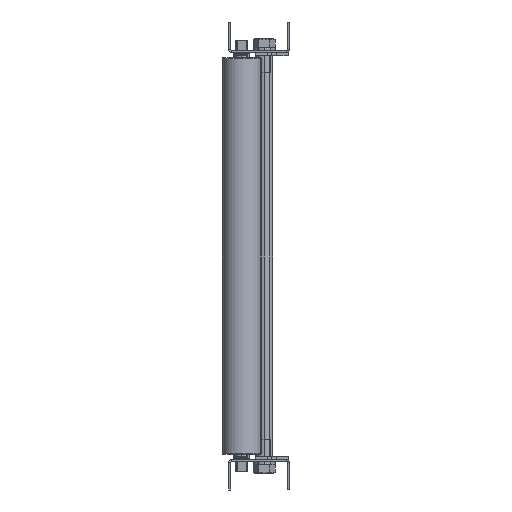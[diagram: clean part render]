
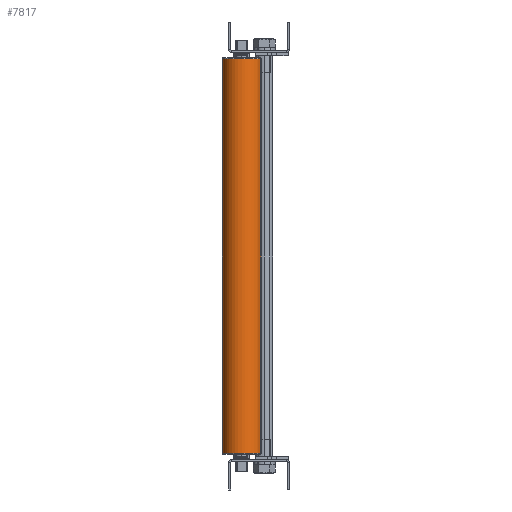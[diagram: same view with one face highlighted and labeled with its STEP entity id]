
A CAD part, left-side view. The second image highlights one B-rep face of the part: STEP entity #7817.
In plain terms, the highlighted cylindrical face has radius 19.05 mm (diameter 38.1 mm), a partial arc.
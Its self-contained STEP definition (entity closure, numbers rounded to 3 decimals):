
#253 = EDGE_CURVE ( 'NONE', #43205, #39177, #35308, .T. ) ;
#1518 = CARTESIAN_POINT ( 'NONE',  ( -1230.166, 229.634, -20.1 ) ) ;
#3311 = CARTESIAN_POINT ( 'NONE',  ( -1223.815, 192.067, 325.941 ) ) ;
#5236 = EDGE_LOOP ( 'NONE', ( #36056, #49978, #26345, #48392 ) ) ;
#5743 = CARTESIAN_POINT ( 'NONE',  ( -1226.99, 210.85, -20.1 ) ) ;
#6389 = CIRCLE ( 'NONE', #31060, 19.05 ) ;
#7008 = DIRECTION ( 'NONE',  ( 0., 0., 1. ) ) ;
#7817 = ADVANCED_FACE ( 'NONE', ( #21912 ), #21371, .T. ) ;
#8067 = AXIS2_PLACEMENT_3D ( 'NONE', #37635, #30435, #17354 ) ;
#10013 = EDGE_CURVE ( 'NONE', #52075, #43205, #41872, .T. ) ;
#14505 = DIRECTION ( 'NONE',  ( 0., 0., -1. ) ) ;
#15083 = DIRECTION ( 'NONE',  ( 0., 0., 1. ) ) ;
#15985 = VECTOR ( 'NONE', #39071, 1000. ) ;
#17354 = DIRECTION ( 'NONE',  ( -0.167, 0.986, 0. ) ) ;
#19398 = CARTESIAN_POINT ( 'NONE',  ( -1230.166, 229.634, -408.1 ) ) ;
#20574 = AXIS2_PLACEMENT_3D ( 'NONE', #51641, #15083, #35101 ) ;
#21371 = CYLINDRICAL_SURFACE ( 'NONE', #8067, 19.05 ) ;
#21912 = FACE_OUTER_BOUND ( 'NONE', #5236, .T. ) ;
#22019 = DIRECTION ( 'NONE',  ( 0.167, -0.986, 0. ) ) ;
#22422 = VERTEX_POINT ( 'NONE', #1518 ) ;
#24924 = EDGE_CURVE ( 'NONE', #39177, #22422, #6389, .T. ) ;
#26345 = ORIENTED_EDGE ( 'NONE', *, *, #24924, .T. ) ;
#28090 = LINE ( 'NONE', #44358, #52444 ) ;
#28390 = CARTESIAN_POINT ( 'NONE',  ( -1223.815, 192.067, -408.1 ) ) ;
#30435 = DIRECTION ( 'NONE',  ( 0., 0., 1. ) ) ;
#31060 = AXIS2_PLACEMENT_3D ( 'NONE', #5743, #14505, #22019 ) ;
#31628 = CARTESIAN_POINT ( 'NONE',  ( -1223.815, 192.067, -20.1 ) ) ;
#35101 = DIRECTION ( 'NONE',  ( -0.167, 0.986, 0. ) ) ;
#35308 = LINE ( 'NONE', #3311, #15985 ) ;
#36056 = ORIENTED_EDGE ( 'NONE', *, *, #10013, .T. ) ;
#37635 = CARTESIAN_POINT ( 'NONE',  ( -1226.99, 210.85, 325.941 ) ) ;
#38573 = EDGE_CURVE ( 'NONE', #52075, #22422, #28090, .T. ) ;
#39071 = DIRECTION ( 'NONE',  ( 0., 0., 1. ) ) ;
#39177 = VERTEX_POINT ( 'NONE', #31628 ) ;
#41872 = CIRCLE ( 'NONE', #20574, 19.05 ) ;
#43205 = VERTEX_POINT ( 'NONE', #28390 ) ;
#44358 = CARTESIAN_POINT ( 'NONE',  ( -1230.166, 229.634, 325.941 ) ) ;
#48392 = ORIENTED_EDGE ( 'NONE', *, *, #38573, .F. ) ;
#49978 = ORIENTED_EDGE ( 'NONE', *, *, #253, .T. ) ;
#51641 = CARTESIAN_POINT ( 'NONE',  ( -1226.99, 210.85, -408.1 ) ) ;
#52075 = VERTEX_POINT ( 'NONE', #19398 ) ;
#52444 = VECTOR ( 'NONE', #7008, 1000. ) ;
